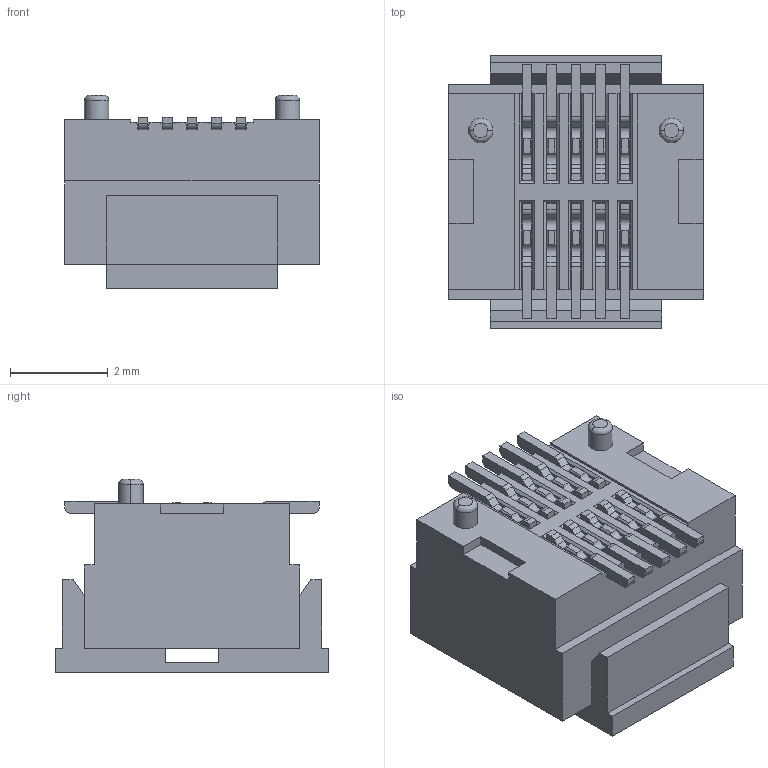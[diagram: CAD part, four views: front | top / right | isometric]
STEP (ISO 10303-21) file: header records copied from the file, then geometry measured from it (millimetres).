
FILE_DESCRIPTION(('CATIA V5 STEP Exchange'),'2;1');
FILE_NAME('F:\黄富鸿\板对板\PBB05\母座\H3.0\编带+盖\HC-PBB05-2-10-F-H3.0-G1-R-P-04（BTB0.5 双槽 母座 立贴 带柱 编带+盖）-HCTL.stp','2025-12-10T09:28:31+00:00',('none'),('none'),'CATIA Version 5 Release 20 GA (IN-10)','CATIA V5 STEP AP203','none');
FILE_SCHEMA(('CONFIG_CONTROL_DESIGN'));
Length unit declared in the file: millimetre
Products named in the file (1): Part2
Bounding box: 5.2 x 5.6 x 3.95 mm (x, y, z)
Volume: 66.5 mm3; surface area: 332.1 mm2
Topology: 12 solids, 12 shells, 722 faces, 2118 edges, 1404 vertices
Faces by surface type: plane 474, cylinder 244, torus 4
Entity records: 20920 total; most frequent: ORIENTED_EDGE 4236, CARTESIAN_POINT 3843, DIRECTION 2478, EDGE_CURVE 2118, VECTOR 1582, LINE 1582, VERTEX_POINT 1404, EDGE_LOOP 726
